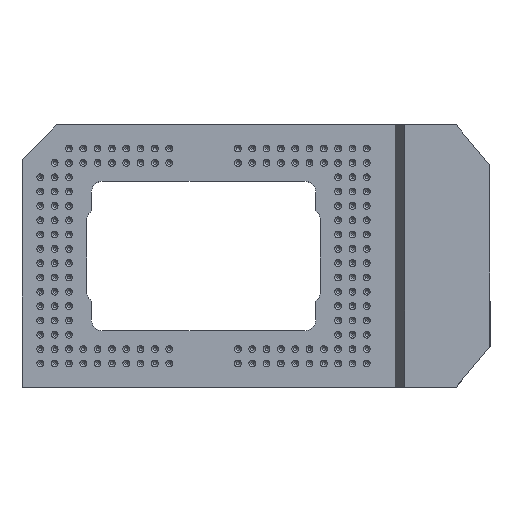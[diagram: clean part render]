
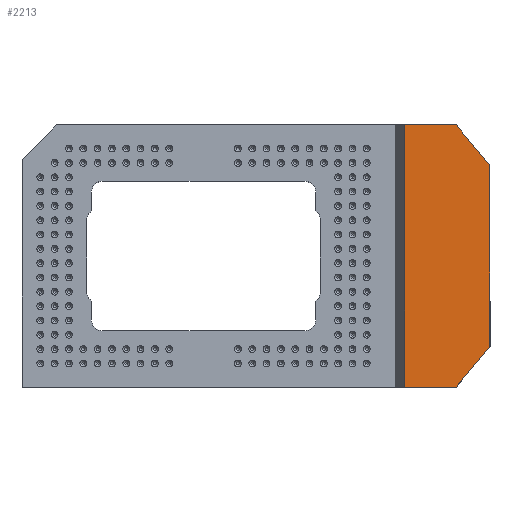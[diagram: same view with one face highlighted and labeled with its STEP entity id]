
A CAD part, top view. The second image highlights one B-rep face of the part: STEP entity #2213.
In plain terms, the highlighted planar face has unit normal (0, 0, 1).
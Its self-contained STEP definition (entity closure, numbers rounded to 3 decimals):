
#2124=CARTESIAN_POINT('',(22.012,11.625,4.1));
#2125=VERTEX_POINT('',#2124);
#2126=CARTESIAN_POINT('',(25.012,8.,4.1));
#2127=VERTEX_POINT('',#2126);
#2128=CARTESIAN_POINT('',(22.012,11.625,4.1));
#2129=DIRECTION('',(0.638,-0.77,0.0));
#2130=VECTOR('',#2129,4.705);
#2131=LINE('',#2128,#2130);
#2132=EDGE_CURVE('',#2125,#2127,#2131,.T.);
#2156=CARTESIAN_POINT('',(25.012,-8.,4.1));
#2157=VERTEX_POINT('',#2156);
#2158=CARTESIAN_POINT('',(25.012,8.,4.1));
#2159=DIRECTION('',(0.0,-1.0,0.0));
#2160=VECTOR('',#2159,16.);
#2161=LINE('',#2158,#2160);
#2162=EDGE_CURVE('',#2127,#2157,#2161,.T.);
#2174=CARTESIAN_POINT('',(20.812,0.,4.1));
#2175=DIRECTION('',(0.0,0.0,1.0));
#2176=DIRECTION('',(1.0,0.0,0.0));
#2177=AXIS2_PLACEMENT_3D('',#2174,#2175,#2176);
#2178=PLANE('',#2177);
#2179=ORIENTED_EDGE('',*,*,#2132,.F.);
#2180=CARTESIAN_POINT('',(17.45,11.625,4.1));
#2181=VERTEX_POINT('',#2180);
#2182=CARTESIAN_POINT('',(17.45,11.625,4.1));
#2183=DIRECTION('',(1.0,0.0,0.0));
#2184=VECTOR('',#2183,4.563);
#2185=LINE('',#2182,#2184);
#2186=EDGE_CURVE('',#2181,#2125,#2185,.T.);
#2187=ORIENTED_EDGE('',*,*,#2186,.F.);
#2188=CARTESIAN_POINT('',(17.45,-11.625,4.1));
#2189=VERTEX_POINT('',#2188);
#2190=CARTESIAN_POINT('',(17.45,11.625,4.1));
#2191=DIRECTION('',(0.0,-1.0,0.0));
#2192=VECTOR('',#2191,23.25);
#2193=LINE('',#2190,#2192);
#2194=EDGE_CURVE('',#2181,#2189,#2193,.T.);
#2195=ORIENTED_EDGE('',*,*,#2194,.T.);
#2196=CARTESIAN_POINT('',(22.012,-11.625,4.1));
#2197=VERTEX_POINT('',#2196);
#2198=CARTESIAN_POINT('',(22.012,-11.625,4.1));
#2199=DIRECTION('',(-1.0,0.0,0.0));
#2200=VECTOR('',#2199,4.563);
#2201=LINE('',#2198,#2200);
#2202=EDGE_CURVE('',#2197,#2189,#2201,.T.);
#2203=ORIENTED_EDGE('',*,*,#2202,.F.);
#2204=CARTESIAN_POINT('',(25.012,-8.,4.1));
#2205=DIRECTION('',(-0.638,-0.77,0.0));
#2206=VECTOR('',#2205,4.705);
#2207=LINE('',#2204,#2206);
#2208=EDGE_CURVE('',#2157,#2197,#2207,.T.);
#2209=ORIENTED_EDGE('',*,*,#2208,.F.);
#2210=ORIENTED_EDGE('',*,*,#2162,.F.);
#2211=EDGE_LOOP('',(#2179,#2187,#2195,#2203,#2209,#2210));
#2212=FACE_OUTER_BOUND('',#2211,.T.);
#2213=ADVANCED_FACE('',(#2212),#2178,.T.);
